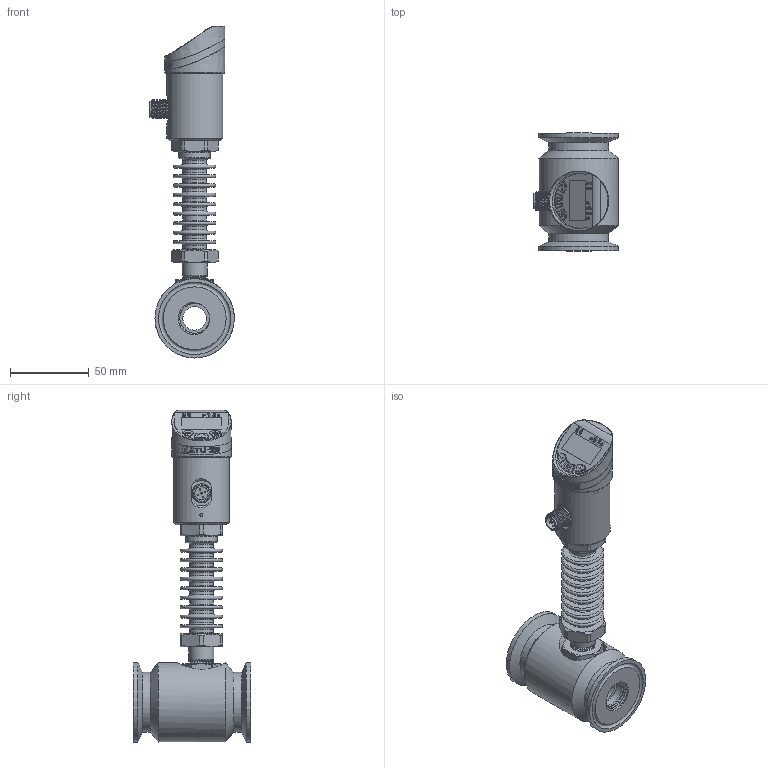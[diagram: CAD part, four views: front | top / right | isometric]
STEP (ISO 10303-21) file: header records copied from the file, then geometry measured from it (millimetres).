
FILE_DESCRIPTION( (''), '2;1');
FILE_NAME( 'QTKE_DN15_tri-clamp_high-temp.step', '2024-10-14T16:39:20+08:00', (''), (''), '', '', '');
FILE_SCHEMA (('AUTOMOTIVE_DESIGN { 1 0 10303 214 3 1 1 1 }'));
Length unit declared in the file: millimetre
Products named in the file (1): QTKE DN15_tri-clamp_high-temp
Bounding box: 53.91 x 75 x 211.25 mm (x, y, z)
Volume: 155585.4 mm3; surface area: 66433.7 mm2
Topology: 5 solids, 5 shells, 1004 faces, 2565 edges, 1663 vertices
Faces by surface type: plane 405, cylinder 181, extrusion 160, cone 112, bspline 63, torus 62, sphere 21
Full cylindrical faces by diameter (mm): 1.689 x1, 2 x1, 2.7 x6, 3.5 x5, 12 x1, 13 x1, 15 x11, 15.9 x1, 17 x1, 19 x7, 20 x1, 23 x3, 26 x5, 31.7 x1, 32 x1, 34 x1, 34.2 x1, 35.5 x2, 38 x2, 50.5 x3
Entity records: 50876 total; most frequent: CARTESIAN_POINT 24050, ORIENTED_EDGE 4690, DIRECTION 4094, EDGE_CURVE 2345, VERTEX_POINT 1592, AXIS2_PLACEMENT_3D 1465, EDGE_LOOP 1241, VECTOR 1164
